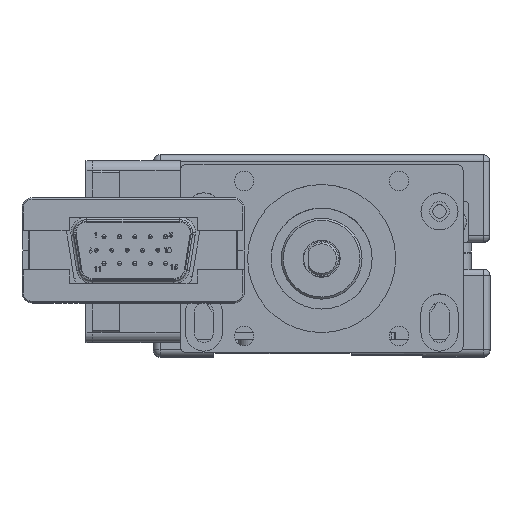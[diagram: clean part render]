
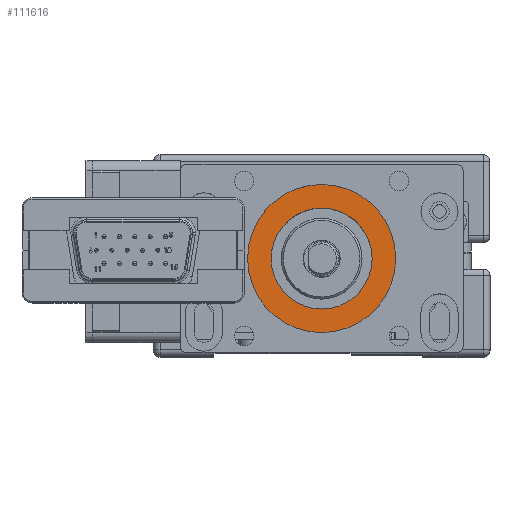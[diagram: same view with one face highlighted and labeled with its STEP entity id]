
A CAD part, top view. The second image highlights one B-rep face of the part: STEP entity #111616.
In plain terms, the highlighted planar face has unit normal (0, 0, 1).
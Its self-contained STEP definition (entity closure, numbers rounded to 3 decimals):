
#3153 = DIRECTION ( 'NONE',  ( 0., 0., 1. ) ) ;
#10013 = AXIS2_PLACEMENT_3D ( 'NONE', #34110, #3153, #30527 ) ;
#25367 = CIRCLE ( 'NONE', #147554, 7.5 ) ;
#28137 = ORIENTED_EDGE ( 'NONE', *, *, #120392, .T. ) ;
#30041 = DIRECTION ( 'NONE',  ( 1., 0., 0. ) ) ;
#30050 = CIRCLE ( 'NONE', #50433, 11. ) ;
#30527 = DIRECTION ( 'NONE',  ( 1., 0., 0. ) ) ;
#33914 = VERTEX_POINT ( 'NONE', #114447 ) ;
#34110 = CARTESIAN_POINT ( 'NONE',  ( 0., 0., 2.5 ) ) ;
#36343 = DIRECTION ( 'NONE',  ( 0., 0., 1. ) ) ;
#37225 = CARTESIAN_POINT ( 'NONE',  ( 0., 0., 2.5 ) ) ;
#38088 = CARTESIAN_POINT ( 'NONE',  ( 0., 0., 2.5 ) ) ;
#38298 = DIRECTION ( 'NONE',  ( 0., 0., -1. ) ) ;
#47603 = DIRECTION ( 'NONE',  ( 0., 0., 1. ) ) ;
#48441 = ORIENTED_EDGE ( 'NONE', *, *, #148812, .T. ) ;
#50433 = AXIS2_PLACEMENT_3D ( 'NONE', #172296, #47603, #62172 ) ;
#50915 = CARTESIAN_POINT ( 'NONE',  ( -7.5, 0., 2.5 ) ) ;
#62172 = DIRECTION ( 'NONE',  ( 1., 0., 0. ) ) ;
#77936 = CARTESIAN_POINT ( 'NONE',  ( 11., 0., 2.5 ) ) ;
#83026 = EDGE_LOOP ( 'NONE', ( #48441, #160718 ) ) ;
#84015 = VERTEX_POINT ( 'NONE', #50915 ) ;
#88543 = CIRCLE ( 'NONE', #10013, 11. ) ;
#90988 = DIRECTION ( 'NONE',  ( 1., 0., 0. ) ) ;
#91816 = EDGE_CURVE ( 'NONE', #84015, #132105, #25367, .T. ) ;
#107344 = PLANE ( 'NONE',  #161787 ) ;
#111616 = ADVANCED_FACE ( 'NONE', ( #122770, #161045 ), #107344, .T. ) ;
#114447 = CARTESIAN_POINT ( 'NONE',  ( -11., 0., 2.5 ) ) ;
#120392 = EDGE_CURVE ( 'NONE', #132105, #84015, #122982, .T. ) ;
#120494 = CARTESIAN_POINT ( 'NONE',  ( 7.5, 0., 2.5 ) ) ;
#122770 = FACE_OUTER_BOUND ( 'NONE', #83026, .T. ) ;
#122982 = CIRCLE ( 'NONE', #175164, 7.5 ) ;
#123480 = EDGE_CURVE ( 'NONE', #33914, #137233, #30050, .T. ) ;
#132105 = VERTEX_POINT ( 'NONE', #120494 ) ;
#137233 = VERTEX_POINT ( 'NONE', #77936 ) ;
#147312 = ORIENTED_EDGE ( 'NONE', *, *, #91816, .T. ) ;
#147554 = AXIS2_PLACEMENT_3D ( 'NONE', #163042, #38298, #30041 ) ;
#148812 = EDGE_CURVE ( 'NONE', #137233, #33914, #88543, .T. ) ;
#149168 = DIRECTION ( 'NONE',  ( 1., 0., 0. ) ) ;
#154732 = EDGE_LOOP ( 'NONE', ( #28137, #147312 ) ) ;
#160718 = ORIENTED_EDGE ( 'NONE', *, *, #123480, .T. ) ;
#161045 = FACE_BOUND ( 'NONE', #154732, .T. ) ;
#161787 = AXIS2_PLACEMENT_3D ( 'NONE', #37225, #36343, #90988 ) ;
#162835 = DIRECTION ( 'NONE',  ( 0., 0., -1. ) ) ;
#163042 = CARTESIAN_POINT ( 'NONE',  ( 0., 0., 2.5 ) ) ;
#172296 = CARTESIAN_POINT ( 'NONE',  ( 0., 0., 2.5 ) ) ;
#175164 = AXIS2_PLACEMENT_3D ( 'NONE', #38088, #162835, #149168 ) ;
